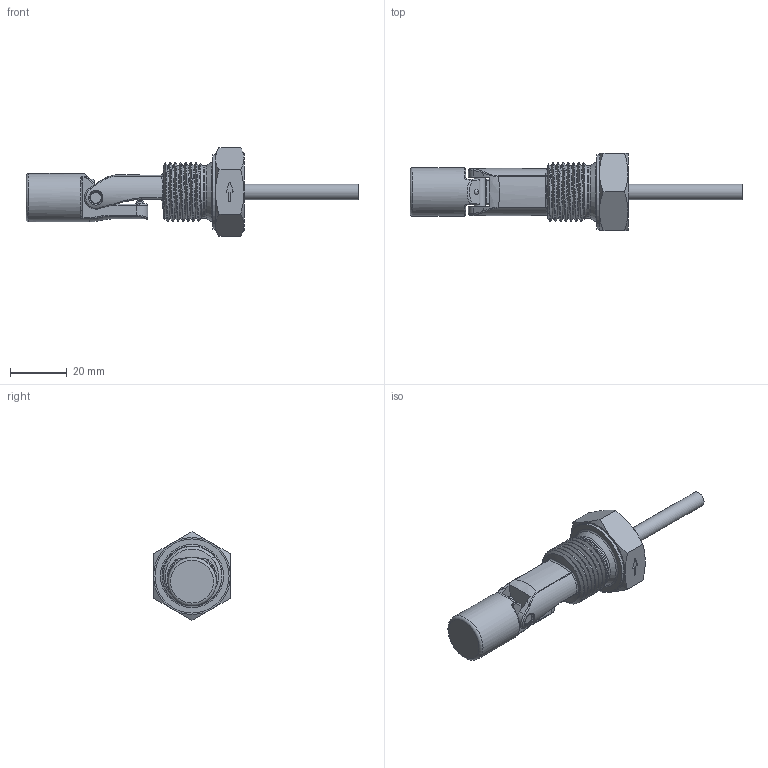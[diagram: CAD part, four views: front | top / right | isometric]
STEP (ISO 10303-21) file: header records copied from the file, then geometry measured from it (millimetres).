
FILE_DESCRIPTION(/* description */ ('Katalogmodell Elobau'),/* implementation_level */ '2;1');
FILE_NAME(/* name */ '204KS___G____A.stp',/* time_stamp */ '2014-10-01T08:44:25+02:00',/* author */ ('Elobau GmbH & Co. KG'),/* organization */ ('Elobau GmbH & Co. KG'),/* preprocessor_version */ 'ST-DEVELOPER v15',/* originating_system */ 'SIEMENS PLM Software NX 8.5',/* authorisation */ '');
FILE_SCHEMA (('AUTOMOTIVE_DESIGN { 1 0 10303 214 3 1 1 1 }'));
Length unit declared in the file: millimetre
Products named in the file (1): 204KS...G..._A
Bounding box: 116.5 x 27 x 31.18 mm (x, y, z)
Volume: 21738 mm3; surface area: 7942.4 mm2
Topology: 2 solids, 2 shells, 178 faces, 439 edges, 271 vertices
Faces by surface type: bspline 56, cylinder 48, plane 44, cone 18, torus 10, sphere 2
Full cylindrical faces by diameter (mm): 3.8 x1, 5.4 x1, 17 x1, 18.4 x1, 26 x1
Entity records: 10061 total; most frequent: CARTESIAN_POINT 6387, ORIENTED_EDGE 836, DIRECTION 625, EDGE_CURVE 418, VERTEX_POINT 263, AXIS2_PLACEMENT_3D 255, EDGE_LOOP 201, ADVANCED_FACE 178
